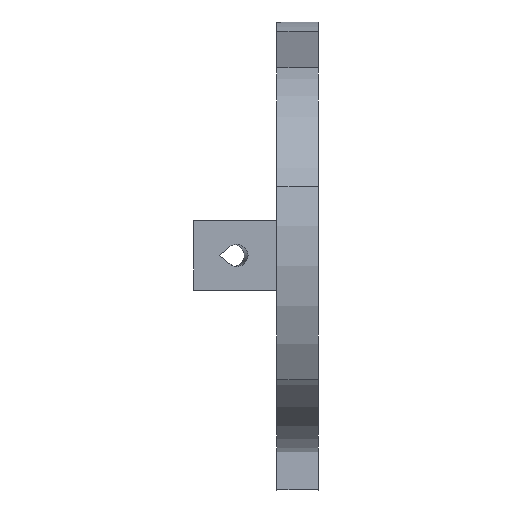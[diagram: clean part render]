
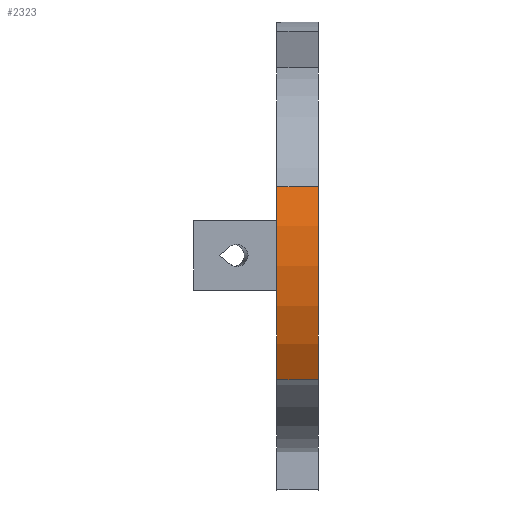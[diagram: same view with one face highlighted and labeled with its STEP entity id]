
A CAD part, front view. The second image highlights one B-rep face of the part: STEP entity #2323.
In plain terms, the highlighted cylindrical face has radius 16.9 mm (diameter 33.8 mm), a partial arc.
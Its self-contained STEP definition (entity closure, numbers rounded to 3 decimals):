
#198 = PLANE('',#199);
#199 = AXIS2_PLACEMENT_3D('',#200,#201,#202);
#200 = CARTESIAN_POINT('',(445.6,0.,0.));
#201 = DIRECTION('',(1.,0.,0.));
#202 = DIRECTION('',(-0.,0.,1.));
#251 = PLANE('',#252);
#252 = AXIS2_PLACEMENT_3D('',#253,#254,#255);
#253 = CARTESIAN_POINT('',(442.6,0.,0.));
#254 = DIRECTION('',(1.,0.,0.));
#255 = DIRECTION('',(-0.,0.,1.));
#775 = VERTEX_POINT('',#776);
#776 = CARTESIAN_POINT('',(442.6,-16.162,4.941));
#789 = PLANE('',#790);
#790 = AXIS2_PLACEMENT_3D('',#791,#792,#793);
#791 = CARTESIAN_POINT('',(441.6,-28.689,8.771));
#792 = DIRECTION('',(-0.,0.292,0.956));
#793 = DIRECTION('',(0.,0.956,-0.292));
#800 = EDGE_CURVE('',#775,#801,#803,.T.);
#801 = VERTEX_POINT('',#802);
#802 = CARTESIAN_POINT('',(442.6,-14.332,-8.956));
#803 = SURFACE_CURVE('',#804,(#809,#816),.PCURVE_S1.);
#804 = CIRCLE('',#805,16.9);
#805 = AXIS2_PLACEMENT_3D('',#806,#807,#808);
#806 = CARTESIAN_POINT('',(442.6,0.,0.));
#807 = DIRECTION('',(1.,0.,0.));
#808 = DIRECTION('',(-0.,0.,1.));
#809 = PCURVE('',#251,#810);
#810 = DEFINITIONAL_REPRESENTATION('',(#811),#815);
#811 = CIRCLE('',#812,16.9);
#812 = AXIS2_PLACEMENT_2D('',#813,#814);
#813 = CARTESIAN_POINT('',(0.,0.));
#814 = DIRECTION('',(1.,0.));
#815 = ( GEOMETRIC_REPRESENTATION_CONTEXT(2) 
PARAMETRIC_REPRESENTATION_CONTEXT() REPRESENTATION_CONTEXT('2D SPACE',''
  ) );
#816 = PCURVE('',#817,#822);
#817 = CYLINDRICAL_SURFACE('',#818,16.9);
#818 = AXIS2_PLACEMENT_3D('',#819,#820,#821);
#819 = CARTESIAN_POINT('',(442.6,0.,0.));
#820 = DIRECTION('',(1.,0.,0.));
#821 = DIRECTION('',(-0.,0.,1.));
#822 = DEFINITIONAL_REPRESENTATION('',(#823),#827);
#823 = LINE('',#824,#825);
#824 = CARTESIAN_POINT('',(0.,0.));
#825 = VECTOR('',#826,1.);
#826 = DIRECTION('',(1.,0.));
#827 = ( GEOMETRIC_REPRESENTATION_CONTEXT(2) 
PARAMETRIC_REPRESENTATION_CONTEXT() REPRESENTATION_CONTEXT('2D SPACE',''
  ) );
#844 = PLANE('',#845);
#845 = AXIS2_PLACEMENT_3D('',#846,#847,#848);
#846 = CARTESIAN_POINT('',(441.6,0.,0.));
#847 = DIRECTION('',(0.,0.53,-0.848));
#848 = DIRECTION('',(0.,-0.848,-0.53));
#1625 = VERTEX_POINT('',#1626);
#1626 = CARTESIAN_POINT('',(445.6,-16.162,4.941));
#1645 = EDGE_CURVE('',#1625,#1646,#1648,.T.);
#1646 = VERTEX_POINT('',#1647);
#1647 = CARTESIAN_POINT('',(445.6,-14.332,-8.956));
#1648 = SURFACE_CURVE('',#1649,(#1654,#1661),.PCURVE_S1.);
#1649 = CIRCLE('',#1650,16.9);
#1650 = AXIS2_PLACEMENT_3D('',#1651,#1652,#1653);
#1651 = CARTESIAN_POINT('',(445.6,0.,0.));
#1652 = DIRECTION('',(1.,0.,0.));
#1653 = DIRECTION('',(-0.,0.,1.));
#1654 = PCURVE('',#198,#1655);
#1655 = DEFINITIONAL_REPRESENTATION('',(#1656),#1660);
#1656 = CIRCLE('',#1657,16.9);
#1657 = AXIS2_PLACEMENT_2D('',#1658,#1659);
#1658 = CARTESIAN_POINT('',(0.,0.));
#1659 = DIRECTION('',(1.,0.));
#1660 = ( GEOMETRIC_REPRESENTATION_CONTEXT(2) 
PARAMETRIC_REPRESENTATION_CONTEXT() REPRESENTATION_CONTEXT('2D SPACE',''
  ) );
#1661 = PCURVE('',#817,#1662);
#1662 = DEFINITIONAL_REPRESENTATION('',(#1663),#1667);
#1663 = LINE('',#1664,#1665);
#1664 = CARTESIAN_POINT('',(0.,3.));
#1665 = VECTOR('',#1666,1.);
#1666 = DIRECTION('',(1.,0.));
#1667 = ( GEOMETRIC_REPRESENTATION_CONTEXT(2) 
PARAMETRIC_REPRESENTATION_CONTEXT() REPRESENTATION_CONTEXT('2D SPACE',''
  ) );
#2269 = EDGE_CURVE('',#801,#1646,#2270,.T.);
#2270 = SURFACE_CURVE('',#2271,(#2275,#2281),.PCURVE_S1.);
#2271 = LINE('',#2272,#2273);
#2272 = CARTESIAN_POINT('',(442.6,-14.332,-8.956));
#2273 = VECTOR('',#2274,1.);
#2274 = DIRECTION('',(1.,0.,0.));
#2275 = PCURVE('',#844,#2276);
#2276 = DEFINITIONAL_REPRESENTATION('',(#2277),#2280);
#2277 = B_SPLINE_CURVE_WITH_KNOTS('',1,(#2278,#2279),.UNSPECIFIED.,.F.,
  .F.,(2,2),(0.,3.),.PIECEWISE_BEZIER_KNOTS.);
#2278 = CARTESIAN_POINT('',(16.9,-1.));
#2279 = CARTESIAN_POINT('',(16.9,-4.));
#2280 = ( GEOMETRIC_REPRESENTATION_CONTEXT(2) 
PARAMETRIC_REPRESENTATION_CONTEXT() REPRESENTATION_CONTEXT('2D SPACE',''
  ) );
#2281 = PCURVE('',#817,#2282);
#2282 = DEFINITIONAL_REPRESENTATION('',(#2283),#2286);
#2283 = B_SPLINE_CURVE_WITH_KNOTS('',1,(#2284,#2285),.UNSPECIFIED.,.F.,
  .F.,(2,2),(0.,3.),.PIECEWISE_BEZIER_KNOTS.);
#2284 = CARTESIAN_POINT('',(2.129,0.));
#2285 = CARTESIAN_POINT('',(2.129,3.));
#2286 = ( GEOMETRIC_REPRESENTATION_CONTEXT(2) 
PARAMETRIC_REPRESENTATION_CONTEXT() REPRESENTATION_CONTEXT('2D SPACE',''
  ) );
#2323 = ADVANCED_FACE('',(#2324),#817,.T.);
#2324 = FACE_BOUND('',#2325,.T.);
#2325 = EDGE_LOOP('',(#2326,#2327,#2346,#2347));
#2326 = ORIENTED_EDGE('',*,*,#1645,.F.);
#2327 = ORIENTED_EDGE('',*,*,#2328,.F.);
#2328 = EDGE_CURVE('',#775,#1625,#2329,.T.);
#2329 = SURFACE_CURVE('',#2330,(#2334,#2340),.PCURVE_S1.);
#2330 = LINE('',#2331,#2332);
#2331 = CARTESIAN_POINT('',(442.6,-16.162,4.941));
#2332 = VECTOR('',#2333,1.);
#2333 = DIRECTION('',(1.,0.,0.));
#2334 = PCURVE('',#817,#2335);
#2335 = DEFINITIONAL_REPRESENTATION('',(#2336),#2339);
#2336 = B_SPLINE_CURVE_WITH_KNOTS('',1,(#2337,#2338),.UNSPECIFIED.,.F.,
  .F.,(2,2),(0.,3.),.PIECEWISE_BEZIER_KNOTS.);
#2337 = CARTESIAN_POINT('',(1.274,0.));
#2338 = CARTESIAN_POINT('',(1.274,3.));
#2339 = ( GEOMETRIC_REPRESENTATION_CONTEXT(2) 
PARAMETRIC_REPRESENTATION_CONTEXT() REPRESENTATION_CONTEXT('2D SPACE',''
  ) );
#2340 = PCURVE('',#789,#2341);
#2341 = DEFINITIONAL_REPRESENTATION('',(#2342),#2345);
#2342 = B_SPLINE_CURVE_WITH_KNOTS('',1,(#2343,#2344),.UNSPECIFIED.,.F.,
  .F.,(2,2),(0.,3.),.PIECEWISE_BEZIER_KNOTS.);
#2343 = CARTESIAN_POINT('',(13.1,-1.));
#2344 = CARTESIAN_POINT('',(13.1,-4.));
#2345 = ( GEOMETRIC_REPRESENTATION_CONTEXT(2) 
PARAMETRIC_REPRESENTATION_CONTEXT() REPRESENTATION_CONTEXT('2D SPACE',''
  ) );
#2346 = ORIENTED_EDGE('',*,*,#800,.T.);
#2347 = ORIENTED_EDGE('',*,*,#2269,.T.);
